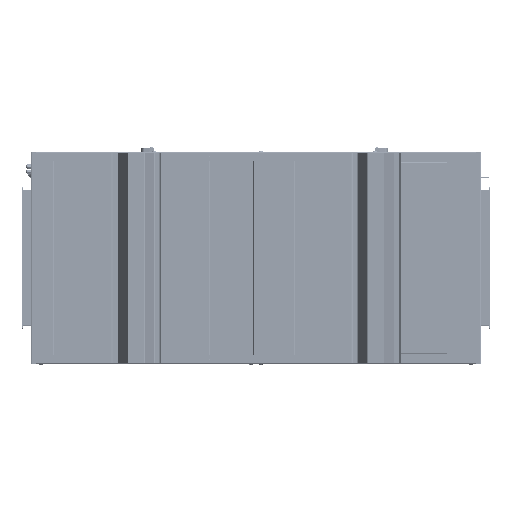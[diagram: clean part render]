
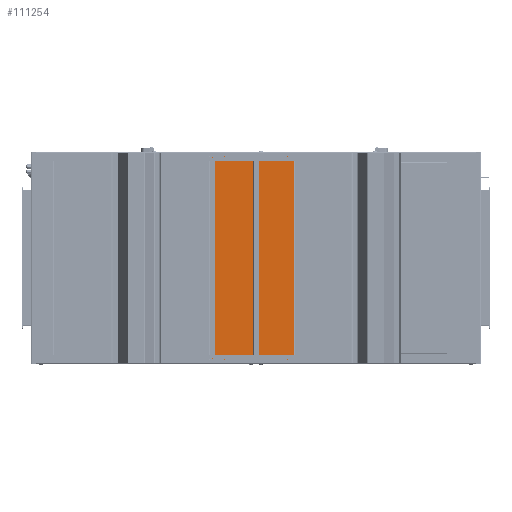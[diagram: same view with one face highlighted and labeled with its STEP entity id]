
A CAD part, front view. The second image highlights one B-rep face of the part: STEP entity #111254.
In plain terms, the highlighted planar face has unit normal (-0.008, -1, 0).
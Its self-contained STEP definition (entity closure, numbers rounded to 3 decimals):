
#2029 = EDGE_LOOP ( 'NONE', ( #157932, #174897 ) ) ;
#2292 = VERTEX_POINT ( 'NONE', #200882 ) ;
#8436 = EDGE_CURVE ( 'NONE', #166058, #84189, #201545, .T. ) ;
#9242 = CARTESIAN_POINT ( 'NONE',  ( -248.385, -669.551, 515.6 ) ) ;
#9363 = DIRECTION ( 'NONE',  ( 0.008, 1., 0. ) ) ;
#11196 = EDGE_CURVE ( 'NONE', #198842, #60611, #55808, .T. ) ;
#11486 = CARTESIAN_POINT ( 'NONE',  ( -269.293, -669.378, -618.6 ) ) ;
#13753 = VERTEX_POINT ( 'NONE', #85894 ) ;
#13865 = ORIENTED_EDGE ( 'NONE', *, *, #70542, .T. ) ;
#15436 = ORIENTED_EDGE ( 'NONE', *, *, #146275, .F. ) ;
#19403 = ORIENTED_EDGE ( 'NONE', *, *, #189925, .T. ) ;
#21247 = DIRECTION ( 'NONE',  ( 1., -0.008, 0. ) ) ;
#23871 = AXIS2_PLACEMENT_3D ( 'NONE', #232784, #140521, #231606 ) ;
#26396 = ORIENTED_EDGE ( 'NONE', *, *, #214916, .F. ) ;
#30602 = EDGE_CURVE ( 'NONE', #177662, #87809, #61750, .T. ) ;
#34498 = VECTOR ( 'NONE', #74189, 1000. ) ;
#39336 = CARTESIAN_POINT ( 'NONE',  ( -245.885, -669.572, 510.1 ) ) ;
#40669 = VECTOR ( 'NONE', #217067, 1000. ) ;
#41302 = ORIENTED_EDGE ( 'NONE', *, *, #8436, .F. ) ;
#43938 = CARTESIAN_POINT ( 'NONE',  ( -245.885, -669.572, 515.6 ) ) ;
#45266 = FACE_BOUND ( 'NONE', #159026, .T. ) ;
#49545 = LINE ( 'NONE', #232763, #40669 ) ;
#50329 = CARTESIAN_POINT ( 'NONE',  ( 226.185, -673.485, 618.6 ) ) ;
#55808 = CIRCLE ( 'NONE', #132265, 2.5 ) ;
#56142 = CARTESIAN_POINT ( 'NONE',  ( -269.293, -669.378, 618.6 ) ) ;
#60611 = VERTEX_POINT ( 'NONE', #85357 ) ;
#61750 = LINE ( 'NONE', #62935, #148878 ) ;
#62659 = ORIENTED_EDGE ( 'NONE', *, *, #86399, .F. ) ;
#62935 = CARTESIAN_POINT ( 'NONE',  ( -270.2, -669.37, 618.6 ) ) ;
#64257 = EDGE_CURVE ( 'NONE', #60611, #198842, #75747, .T. ) ;
#64634 = CARTESIAN_POINT ( 'NONE',  ( -245.885, -669.572, 510.1 ) ) ;
#64825 = CARTESIAN_POINT ( 'NONE',  ( -270.2, -669.37, -618.6 ) ) ;
#70106 = ORIENTED_EDGE ( 'NONE', *, *, #30602, .F. ) ;
#70542 = EDGE_CURVE ( 'NONE', #177662, #106192, #221417, .T. ) ;
#71799 = AXIS2_PLACEMENT_3D ( 'NONE', #64634, #174744, #124426 ) ;
#74189 = DIRECTION ( 'NONE',  ( 0., 0., -1. ) ) ;
#75747 = CIRCLE ( 'NONE', #71799, 2.5 ) ;
#76917 = CIRCLE ( 'NONE', #23871, 2.5 ) ;
#84189 = VERTEX_POINT ( 'NONE', #124994 ) ;
#84539 = CIRCLE ( 'NONE', #115062, 2.5 ) ;
#84798 = FACE_BOUND ( 'NONE', #105193, .T. ) ;
#85357 = CARTESIAN_POINT ( 'NONE',  ( -243.385, -669.593, 510.1 ) ) ;
#85894 = CARTESIAN_POINT ( 'NONE',  ( 226.185, -673.485, -618.6 ) ) ;
#86399 = EDGE_CURVE ( 'NONE', #133798, #2292, #218889, .T. ) ;
#87809 = VERTEX_POINT ( 'NONE', #50329 ) ;
#89028 = CARTESIAN_POINT ( 'NONE',  ( -248.385, -669.551, 510.1 ) ) ;
#89954 = VECTOR ( 'NONE', #214384, 1000. ) ;
#105193 = EDGE_LOOP ( 'NONE', ( #62659, #15436 ) ) ;
#105614 = CARTESIAN_POINT ( 'NONE',  ( -245.885, -669.572, 521.1 ) ) ;
#106192 = VERTEX_POINT ( 'NONE', #11486 ) ;
#111254 = ADVANCED_FACE ( 'NONE', ( #227290, #84798, #45266, #191334 ), #118333, .F. ) ;
#111825 = DIRECTION ( 'NONE',  ( -0.008, -1., 0. ) ) ;
#115062 = AXIS2_PLACEMENT_3D ( 'NONE', #206349, #111825, #116582 ) ;
#115366 = AXIS2_PLACEMENT_3D ( 'NONE', #173373, #9363, #155396 ) ;
#116582 = DIRECTION ( 'NONE',  ( 1., -0.008, 0. ) ) ;
#118333 = PLANE ( 'NONE',  #115366 ) ;
#124426 = DIRECTION ( 'NONE',  ( 1., -0.008, 0. ) ) ;
#124994 = CARTESIAN_POINT ( 'NONE',  ( -243.385, -669.593, 515.6 ) ) ;
#130524 = AXIS2_PLACEMENT_3D ( 'NONE', #105614, #232619, #142724 ) ;
#132265 = AXIS2_PLACEMENT_3D ( 'NONE', #39336, #168624, #202152 ) ;
#133798 = VERTEX_POINT ( 'NONE', #222763 ) ;
#140521 = DIRECTION ( 'NONE',  ( -0.008, -1., 0. ) ) ;
#142724 = DIRECTION ( 'NONE',  ( 1., -0.008, 0. ) ) ;
#146275 = EDGE_CURVE ( 'NONE', #2292, #133798, #76917, .T. ) ;
#148878 = VECTOR ( 'NONE', #189855, 1000. ) ;
#155396 = DIRECTION ( 'NONE',  ( -1., 0.008, 0. ) ) ;
#156345 = ORIENTED_EDGE ( 'NONE', *, *, #191239, .F. ) ;
#157932 = ORIENTED_EDGE ( 'NONE', *, *, #64257, .F. ) ;
#159026 = EDGE_LOOP ( 'NONE', ( #26396, #41302 ) ) ;
#166058 = VERTEX_POINT ( 'NONE', #9242 ) ;
#168624 = DIRECTION ( 'NONE',  ( -0.008, -1., 0. ) ) ;
#171009 = AXIS2_PLACEMENT_3D ( 'NONE', #43938, #206770, #21247 ) ;
#173373 = CARTESIAN_POINT ( 'NONE',  ( -270.2, -669.37, 618.6 ) ) ;
#174744 = DIRECTION ( 'NONE',  ( -0.008, -1., 0. ) ) ;
#174897 = ORIENTED_EDGE ( 'NONE', *, *, #11196, .F. ) ;
#177662 = VERTEX_POINT ( 'NONE', #56142 ) ;
#189855 = DIRECTION ( 'NONE',  ( 1., -0.008, 0. ) ) ;
#189925 = EDGE_CURVE ( 'NONE', #106192, #13753, #228886, .T. ) ;
#191239 = EDGE_CURVE ( 'NONE', #87809, #13753, #49545, .T. ) ;
#191334 = FACE_OUTER_BOUND ( 'NONE', #205064, .T. ) ;
#198842 = VERTEX_POINT ( 'NONE', #89028 ) ;
#200882 = CARTESIAN_POINT ( 'NONE',  ( -248.385, -669.551, 521.1 ) ) ;
#201545 = CIRCLE ( 'NONE', #171009, 2.5 ) ;
#202152 = DIRECTION ( 'NONE',  ( 1., -0.008, 0. ) ) ;
#205064 = EDGE_LOOP ( 'NONE', ( #13865, #19403, #156345, #70106 ) ) ;
#206349 = CARTESIAN_POINT ( 'NONE',  ( -245.885, -669.572, 515.6 ) ) ;
#206770 = DIRECTION ( 'NONE',  ( -0.008, -1., 0. ) ) ;
#214384 = DIRECTION ( 'NONE',  ( 1., -0.008, 0. ) ) ;
#214628 = CARTESIAN_POINT ( 'NONE',  ( -269.293, -669.378, 618.6 ) ) ;
#214916 = EDGE_CURVE ( 'NONE', #84189, #166058, #84539, .T. ) ;
#217067 = DIRECTION ( 'NONE',  ( 0., 0., -1. ) ) ;
#218889 = CIRCLE ( 'NONE', #130524, 2.5 ) ;
#221417 = LINE ( 'NONE', #214628, #34498 ) ;
#222763 = CARTESIAN_POINT ( 'NONE',  ( -243.385, -669.593, 521.1 ) ) ;
#227290 = FACE_BOUND ( 'NONE', #2029, .T. ) ;
#228886 = LINE ( 'NONE', #64825, #89954 ) ;
#231606 = DIRECTION ( 'NONE',  ( 1., -0.008, 0. ) ) ;
#232619 = DIRECTION ( 'NONE',  ( -0.008, -1., 0. ) ) ;
#232763 = CARTESIAN_POINT ( 'NONE',  ( 226.185, -673.485, 618.6 ) ) ;
#232784 = CARTESIAN_POINT ( 'NONE',  ( -245.885, -669.572, 521.1 ) ) ;
